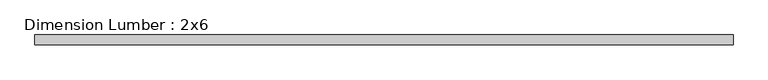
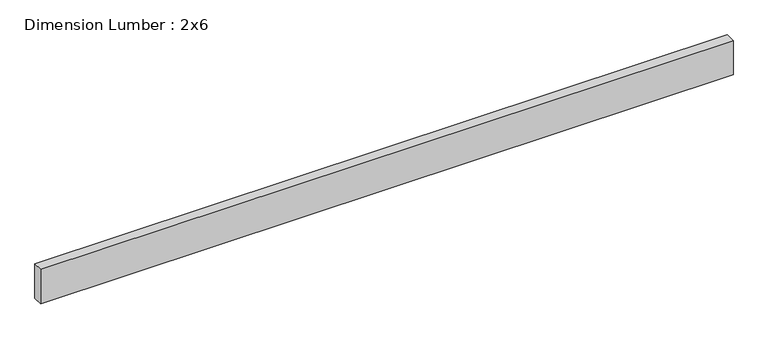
"""IFC4 building model written with IfcOpenShell, lengths in millimetres: beam geometry, Dimension Lumber : 2x6."""

from ifc_helpers import new_model, si_unit, frame, origin, place, context, project, spatial, polyline, outline, extrude, source, transform, mapped, element, save


def dimension_lumber_2x6_253154f5(model_context):
    return source(origin(), model_context, "Body", "SweptSolid", [
        extrude(outline(polyline([(1333.5, 19.05), (1333.5, -19.05), (-1333.5, -19.05), (-1333.5, 19.05), (1333.5, 19.05)])), frame((0.0, 0.0, -69.85), z_axis=(0.0, 0.0, 1.0), x_axis=(1.0, 0.0, 0.0)), (0.0, 0.0, 1.0), 139.7),
    ])


if __name__ == "__main__":
    model = new_model("IFC4")
    model_context = context("Model", 3, world=origin())
    ifc_project = project(units=[si_unit("LENGTHUNIT", "METRE", prefix="MILLI")], contexts=[model_context])
    site = spatial("IfcSite", under=ifc_project)
    building = spatial("IfcBuilding", under=site)
    placement = place(None, origin())
    dimension_lumber_2x6_shape = dimension_lumber_2x6_253154f5(model_context)
    element("IfcBeam", 1, ObjectType="Dimension Lumber : 2x6", at=placement, inside=building, context=model_context, shape_type="MappedRepresentation", body=[
        mapped(dimension_lumber_2x6_shape, transform((0.0, 0.0, 0.0), x_axis=(1.0, 0.0, 0.0), y_axis=(0.0, 1.0, 0.0), z_axis=(0.0, 0.0, 1.0))),
    ])
    save(model, "model.ifc")
